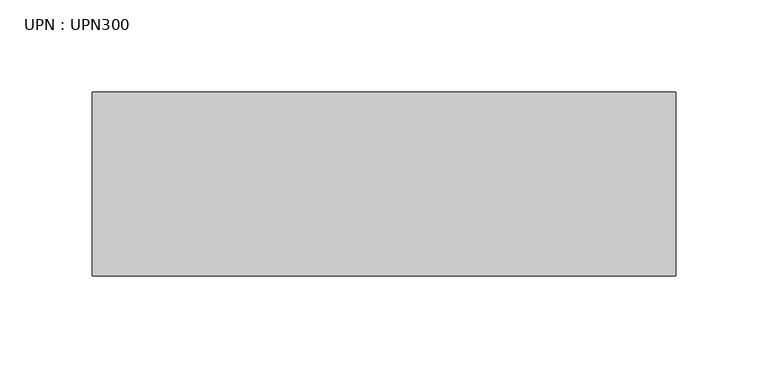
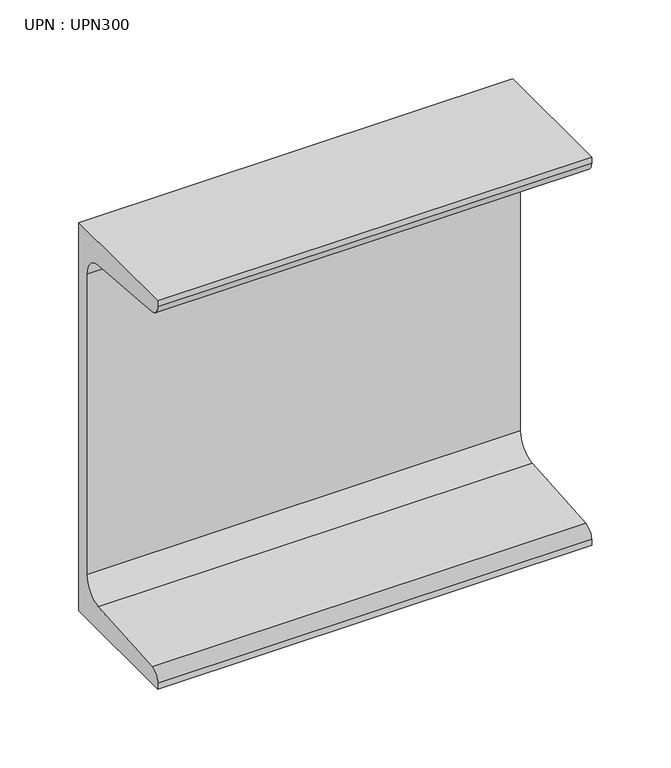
"""IFC4 building model written with IfcOpenShell, lengths in millimetres: beam geometry, UPN : UPN300."""

import ifcopenshell
import ifcopenshell.guid

model = None  # the IFC model being written
_history = None  # IfcOwnerHistory: only IFC2X3 demands one
_inside = {}  # id of a spatial element -> (the spatial element, [elements in it])
_under = {}  # id of a project, library or spatial element -> (it, [spatial elements below it])
_declared = {}  # id of a project -> (the project, [libraries it declares])
_typed = {}  # id of a type object -> (the type object, [elements of that type])
_made_of = {}  # id of a material, layer set ... -> (it, [elements and type objects made of it])


def new_model(schema):
    """Start an empty IFC model of exactly this schema.

    Asked for "IFC4X3", IfcOpenShell would pick the latest addendum, in which some entities
    have other attributes; the version numbers below select the first issue.
    IFC2X3 requires an IfcOwnerHistory on every rooted entity: one is made here for all.
    """
    global model, _history
    if schema == "IFC4X3":
        model = ifcopenshell.file(schema_version=(4, 3, 0, 0))
    else:
        model = ifcopenshell.file(schema=schema)
    _inside.clear()
    _under.clear()
    _declared.clear()
    _typed.clear()
    _made_of.clear()
    _history = None
    if model.schema == "IFC2X3":
        org = make("IfcOrganization", Name="unknown")
        user = make(
            "IfcPersonAndOrganization",
            ThePerson=make("IfcPerson", FamilyName="unknown"),
            TheOrganization=org,
        )
        app = make(
            "IfcApplication",
            ApplicationDeveloper=org,
            Version="unknown",
            ApplicationFullName="unknown",
            ApplicationIdentifier="unknown",
        )
        _history = make(
            "IfcOwnerHistory",
            OwningUser=user,
            OwningApplication=app,
            ChangeAction="ADDED",
            CreationDate=0,
        )
    return model


def make(cls, **values):
    """One entity of the class cls with the attributes given. An attribute that is None is left unset."""
    return model.create_entity(
        cls, **{name: value for name, value in values.items() if value is not None}
    )


def rooted(cls, **values):
    """An entity with a GlobalId (a new one), such as an element, a storey or a relation."""
    return make(cls, GlobalId=ifcopenshell.guid.new(), OwnerHistory=_history, **values)


def si_unit(unit_type, name, prefix=None):
    """IfcSIUnit, for example si_unit("LENGTHUNIT", "METRE", prefix="MILLI")."""
    return make("IfcSIUnit", UnitType=unit_type, Prefix=prefix, Name=name)


def assignment(units):
    """IfcUnitAssignment: the units of a project."""
    return None if units is None else make("IfcUnitAssignment", Units=units)


def point(xyz):
    """IfcCartesianPoint."""
    return None if xyz is None else make("IfcCartesianPoint", Coordinates=xyz)


def direction(xyz):
    """IfcDirection."""
    return None if xyz is None else make("IfcDirection", DirectionRatios=xyz)


def frame(location, z_axis=None, x_axis=None):
    """IfcAxis2Placement3D, a coordinate frame: its origin and axes. An axis left out is left unset."""
    return make(
        "IfcAxis2Placement3D",
        Location=point(location),
        Axis=direction(z_axis),
        RefDirection=direction(x_axis),
    )


def frame_2d(location, x_axis=None):
    """IfcAxis2Placement2D, a coordinate frame in the plane: its origin and x axis."""
    return make(
        "IfcAxis2Placement2D", Location=point(location), RefDirection=direction(x_axis)
    )


def origin():
    """The frame at (0, 0, 0) with its axes left unset."""
    return frame((0.0, 0.0, 0.0))


def place(relative_to, where):
    """IfcLocalPlacement: puts the frame where relative to a parent placement (None: the world)."""
    return make(
        "IfcLocalPlacement", PlacementRelTo=relative_to, RelativePlacement=where
    )


def context(
    kind, dimensions, precision=None, world=None, true_north=None, identifier=None
):
    """IfcGeometricRepresentationContext, for example the 3D "Model" context."""
    return make(
        "IfcGeometricRepresentationContext",
        ContextIdentifier=identifier,
        ContextType=kind,
        CoordinateSpaceDimension=dimensions,
        Precision=precision,
        WorldCoordinateSystem=world,
        TrueNorth=true_north,
    )


def project(units=None, contexts=None):
    """IfcProject with its units and contexts."""
    return rooted(
        "IfcProject",
        Name="project",
        RepresentationContexts=contexts,
        UnitsInContext=assignment(units),
    )


def spatial(cls, under=None, at=None, **own):
    """A site, building, storey or space (cls), placed at a placement, below another one or the project."""
    s = rooted(cls, ObjectPlacement=at, **own)
    if under is not None:
        _under.setdefault(under.id(), (under, []))[1].append(s)
    return s


def polyline(points):
    """IfcPolyline through the points."""
    return make("IfcPolyline", Points=[point(p) for p in points])


def circle_curve(where, radius):
    """IfcCircle in the frame where."""
    return make("IfcCircle", Position=where, Radius=radius)


def trimmed(basis, trim1, trim2, sense, master):
    """IfcTrimmedCurve: the piece of a basis curve between two trims."""
    return make(
        "IfcTrimmedCurve",
        BasisCurve=basis,
        Trim1=trim1,
        Trim2=trim2,
        SenseAgreement=sense,
        MasterRepresentation=master,
    )


def segment(curve, same_sense, transition):
    """IfcCompositeCurveSegment."""
    return make(
        "IfcCompositeCurveSegment",
        Transition=transition,
        SameSense=same_sense,
        ParentCurve=curve,
    )


def composite_curve(segments, self_intersect=None):
    """IfcCompositeCurve: segments joined end to end."""
    return make("IfcCompositeCurve", Segments=segments, SelfIntersect=self_intersect)


def outline(outer, holes=None, kind="AREA"):
    """IfcArbitraryClosedProfileDef: a profile drawn as a closed curve; with holes, ...WithVoids."""
    if holes is None:
        return make("IfcArbitraryClosedProfileDef", ProfileType=kind, OuterCurve=outer)
    return make(
        "IfcArbitraryProfileDefWithVoids",
        ProfileType=kind,
        OuterCurve=outer,
        InnerCurves=holes,
    )


def extrude(swept, where, along, depth):
    """IfcExtrudedAreaSolid: the profile swept, set in the frame where, extruded along a direction by depth."""
    return make(
        "IfcExtrudedAreaSolid",
        SweptArea=swept,
        Position=where,
        ExtrudedDirection=direction(along),
        Depth=depth,
    )


def shape(context_of_items, identifier, shape_type, items):
    """IfcShapeRepresentation: the items that make up one representation, for example the "Body"."""
    return make(
        "IfcShapeRepresentation",
        ContextOfItems=context_of_items,
        RepresentationIdentifier=identifier,
        RepresentationType=shape_type,
        Items=items,
    )


def source(mapping_origin, context_of_items, identifier, shape_type, items):
    """IfcRepresentationMap: a shape defined once, which mapped items show again and again."""
    return make(
        "IfcRepresentationMap",
        MappingOrigin=mapping_origin,
        MappedRepresentation=shape(context_of_items, identifier, shape_type, items),
    )


def transform(
    local_origin,
    x_axis=None,
    y_axis=None,
    z_axis=None,
    scale=None,
    scale2=None,
    scale3=None,
    uniform=True,
):
    """IfcCartesianTransformationOperator3D, or its non-uniform kind. x_axis, y_axis, z_axis: its Axis1, 2, 3."""
    if uniform:
        return make(
            "IfcCartesianTransformationOperator3D",
            Axis1=direction(x_axis),
            Axis2=direction(y_axis),
            LocalOrigin=point(local_origin),
            Scale=scale,
            Axis3=direction(z_axis),
        )
    return make(
        "IfcCartesianTransformationOperator3DnonUniform",
        Axis1=direction(x_axis),
        Axis2=direction(y_axis),
        LocalOrigin=point(local_origin),
        Scale=scale,
        Axis3=direction(z_axis),
        Scale2=scale2,
        Scale3=scale3,
    )


def mapped(mapping_source, mapping_target):
    """IfcMappedItem: shows the shape of a source again, moved by a transform."""
    return make(
        "IfcMappedItem", MappingSource=mapping_source, MappingTarget=mapping_target
    )


def made_of(thing, what):
    """Note that an element or type object is made of a material, layer set ...; save() writes the relation."""
    if what is not None:
        _made_of.setdefault(what.id(), (what, []))[1].append(thing)
    return thing


def element(
    cls,
    number,
    at=None,
    inside=None,
    cuts=None,
    type_object=None,
    material=None,
    context=None,
    identifier="Body",
    shape_type=None,
    held_by="IfcProductDefinitionShape",
    body=None,
    shapes=None,
    **own,
):
    """One element of the class cls, such as IfcWall. Its Tag is "e" and its number.

    at: its placement. inside: the storey or other place that contains it. cuts: it is an
    opening in that element (IfcRelVoidsElement). A single representation is given by context,
    identifier, shape_type and body (its items); several are given by shapes. held_by: the class
    of the entity that holds the representations. save() writes the other relations.
    """
    e = rooted(cls, Tag="e%d" % number, ObjectPlacement=at, **own)
    if body is not None:
        shapes = [shape(context, identifier, shape_type, body)]
    if shapes is not None:
        e.Representation = make(held_by, Representations=shapes)
    if inside is not None:
        _inside.setdefault(inside.id(), (inside, []))[1].append(e)
    if cuts is not None:
        rooted(
            "IfcRelVoidsElement", RelatingBuildingElement=cuts, RelatedOpeningElement=e
        )
    if type_object is not None:
        _typed.setdefault(type_object.id(), (type_object, []))[1].append(e)
    return made_of(e, material)


def aggregate(whole, parts):
    """IfcRelAggregates: a whole, such as a stair, and the parts it consists of."""
    return rooted("IfcRelAggregates", RelatingObject=whole, RelatedObjects=parts)


def save(model, path):
    """Write the relations noted so far, then the file.

    IfcRelAggregates (storeys below a building ...), IfcRelContainedInSpatialStructure (elements
    in a storey), IfcRelDefinesByType, IfcRelAssociatesMaterial and IfcRelDeclares: one each for
    every whole, place, type object, material and project.
    """
    for whole, parts in _under.values():
        aggregate(whole, parts)
    for where, things in _inside.values():
        rooted(
            "IfcRelContainedInSpatialStructure",
            RelatedElements=things,
            RelatingStructure=where,
        )
    for kind, things in _typed.values():
        rooted("IfcRelDefinesByType", RelatedObjects=things, RelatingType=kind)
    for what, things in _made_of.values():
        rooted("IfcRelAssociatesMaterial", RelatedObjects=things, RelatingMaterial=what)
    for by, libraries in _declared.values():
        rooted("IfcRelDeclares", RelatingContext=by, RelatedDefinitions=libraries)
    model.write(path)


def upn_upn300_8e38a884(model_context):
    return source(origin(), model_context, "Body", "SweptSolid", [
        extrude(outline(composite_curve([segment(polyline([(27.0, 150.0), (27.0, -150.0), (-73.0, -150.0), (-73.0, -145.3826224)]), True, "CONTINUOUS"), segment(trimmed(circle_curve(frame_2d((-65.0, -145.3826224)), 8.0), [point((-73.0, -145.3826224))], [point((-65.637416, -137.4080566))], False, "CARTESIAN"), True, "CONTINUOUS"), segment(polyline([(-65.637416, -137.4080566), (2.274832, -131.9797543)]), True, "CONTINUOUS"), segment(trimmed(circle_curve(frame_2d((1.0, -116.0306225)), 16.0), [point((2.274832, -131.9797543))], [point((17.0, -116.0306225))], True, "CARTESIAN"), True, "CONTINUOUS"), segment(polyline([(17.0, -116.0306225), (17.0, 116.0306225)]), True, "CONTINUOUS"), segment(trimmed(circle_curve(frame_2d((1.0, 116.0306225)), 16.0), [point((17.0, 116.0306225))], [point((2.274832, 131.9797543))], True, "CARTESIAN"), True, "CONTINUOUS"), segment(polyline([(2.274832, 131.9797543), (-65.637416, 137.4080566)]), True, "CONTINUOUS"), segment(trimmed(circle_curve(frame_2d((-65.0, 145.3826224)), 8.0), [point((-65.637416, 137.4080566))], [point((-73.0, 145.3826224))], False, "CARTESIAN"), True, "CONTINUOUS"), segment(polyline([(-73.0, 145.3826224), (-73.0, 150.0), (27.0, 150.0)]), True, "CONTINUOUS")], self_intersect=False)), frame((-114.6, 0.0, 0.0), z_axis=(1.0, 0.0, 0.0), x_axis=(0.0, 1.0, 0.0)), (0.0, 0.0, 1.0), 317.1),
    ])


if __name__ == "__main__":
    model = new_model("IFC4")
    model_context = context("Model", 3, world=origin())
    ifc_project = project(units=[si_unit("LENGTHUNIT", "METRE", prefix="MILLI")], contexts=[model_context])
    site = spatial("IfcSite", under=ifc_project)
    building = spatial("IfcBuilding", under=site)
    placement = place(None, origin())
    upn_upn300_shape = upn_upn300_8e38a884(model_context)
    element("IfcBeam", 1, ObjectType="UPN : UPN300", at=placement, inside=building, context=model_context, shape_type="MappedRepresentation", body=[
        mapped(upn_upn300_shape, transform((0.0, 0.0, 0.0), x_axis=(1.0, 0.0, 0.0), y_axis=(0.0, 1.0, 0.0), z_axis=(0.0, 0.0, 1.0))),
    ])
    save(model, "model.ifc")
